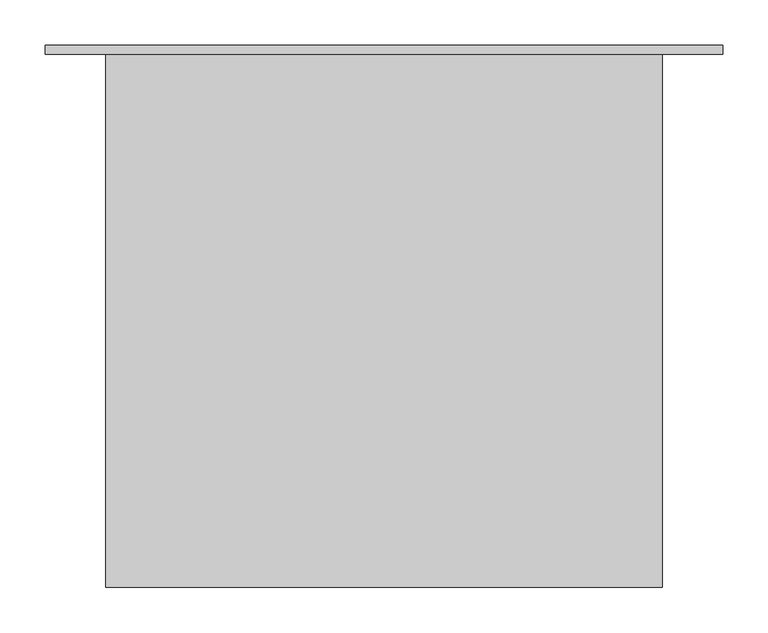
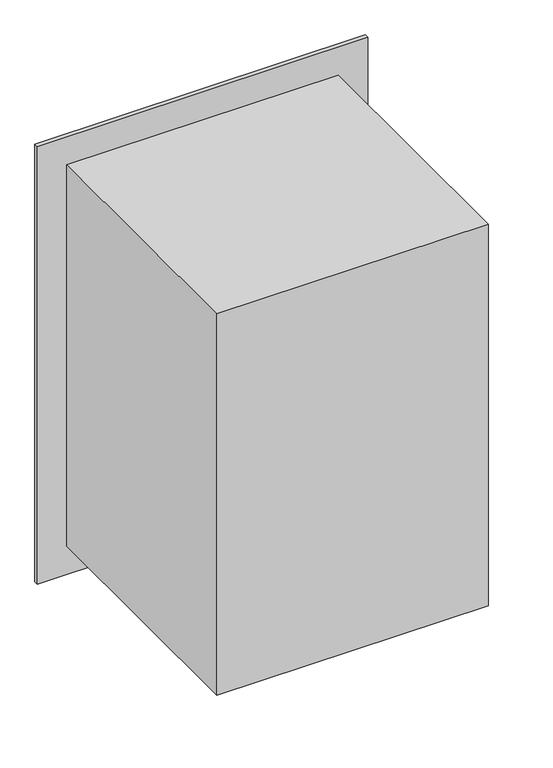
"""IFC4 building model written with IfcOpenShell, lengths in millimetres: proxy geometry, 600x900 - 600mm Manway Riser."""

from ifc_helpers import new_model, si_unit, origin, place, context, project, spatial, faceted_brep, source, transform, mapped, element, save


def generic_models_d9ee4f9d(model_context):
    return source(origin(), model_context, "Body", "Brep", [
        faceted_brep([(308.0, -600.0, -458.0), (308.0, -600.0, 458.0), (-308.0, -600.0, 458.0), (-308.0, -600.0, -458.0), (375.0, 0.0, -525.0), (-375.0, 0.0, -525.0), (-375.0, 0.0, 525.0), (375.0, 0.0, 525.0), (-308.0, -10.0, -458.0), (308.0, -10.0, -458.0), (-375.0, -10.0, -525.0), (375.0, -10.0, -525.0), (375.0, -10.0, 525.0), (-375.0, -10.0, 525.0), (-308.0, -10.0, 458.0), (308.0, -10.0, 458.0)], [[[0, 1, 2, 3]], [[4, 5, 6, 7]], [[0, 3, 8, 9]], [[10, 11, 12, 13], [9, 8, 14, 15]], [[3, 2, 14, 8]], [[2, 1, 15, 14]], [[0, 9, 15, 1]], [[5, 4, 11, 10]], [[6, 5, 10, 13]], [[7, 6, 13, 12]], [[4, 7, 12, 11]]]),
    ])


if __name__ == "__main__":
    model = new_model("IFC4")
    model_context = context("Model", 3, world=origin())
    ifc_project = project(units=[si_unit("LENGTHUNIT", "METRE", prefix="MILLI")], contexts=[model_context])
    site = spatial("IfcSite", under=ifc_project)
    building = spatial("IfcBuilding", under=site)
    placement = place(None, origin())
    generic_models_shape = generic_models_d9ee4f9d(model_context)
    element("IfcBuildingElementProxy", 1, Name="600x900 - 600mm Manway Riser", ObjectType="600x900 - 600mm Manway Riser", at=placement, inside=building, context=model_context, shape_type="MappedRepresentation", body=[
        mapped(generic_models_shape, transform((0.0, 0.0, 0.0), x_axis=(1.0, 0.0, 0.0), y_axis=(0.0, 1.0, 0.0), z_axis=(0.0, 0.0, 1.0))),
    ])
    save(model, "model.ifc")
